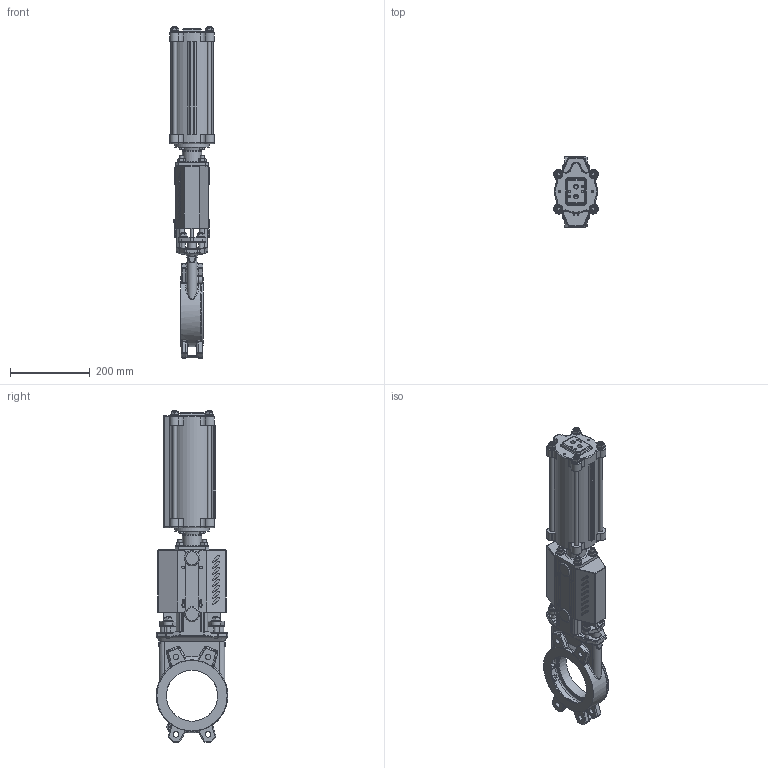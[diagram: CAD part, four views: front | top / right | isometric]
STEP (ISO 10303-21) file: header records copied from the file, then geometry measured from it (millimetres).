
FILE_DESCRIPTION(/* description */ (''),/* implementation_level */ '2;1');
FILE_NAME(/* name */ 'F:\Emir\3D-block special\MV VALVE\PNEUMATIC ACTUATOR\MV-DN125-PN10-FRSC100-165.stp',/* time_stamp */ '2018-02-15T15:08:24+01:00',/* author */ ('emimus'),/* organization */ (''),/* preprocessor_version */ 'ST-DEVELOPER v17',/* originating_system */ 'Autodesk Inventor 2018',/* authorisation */ '');
FILE_SCHEMA (('CONFIG_CONTROL_DESIGN'));
Products named in the file (1): MV-DN125-PN10-FRSC100-165_Shrinkwrap_1
Bounding box: 112.17 x 178.93 x 831 mm (x, y, z)
Volume: 2707798.6 mm3; surface area: 962233.4 mm2
Topology: 2 solids, 2 shells, 2445 faces, 6076 edges, 3696 vertices
Faces by surface type: plane 824, cylinder 704, bspline 296, cone 271, torus 257, sphere 93
Full cylindrical faces by diameter (mm): 3 x12, 3.6 x1, 4 x8, 4.134 x4, 4.2 x15, 4.5 x4, 4.917 x4, 6 x4, 6.647 x1, 6.75 x2, 8 x7, 8.5 x4, 10 x32, 10.106 x1, 10.5 x12, 11 x8, 11.445 x2, 11.63 x4, 12 x4, 14 x9, 14.376 x1, 15 x2, 15.24 x2, 20 x13, 20.15 x2, 22 x1, 24 x5, 26 x1, 26.4 x1, 28 x3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
Entity records: 95543 total; most frequent: CARTESIAN_POINT 38778, DIRECTION 12045, ORIENTED_EDGE 12026, EDGE_CURVE 6013, AXIS2_PLACEMENT_3D 4970, VERTEX_POINT 3694, EDGE_LOOP 2707, CIRCLE 2634
